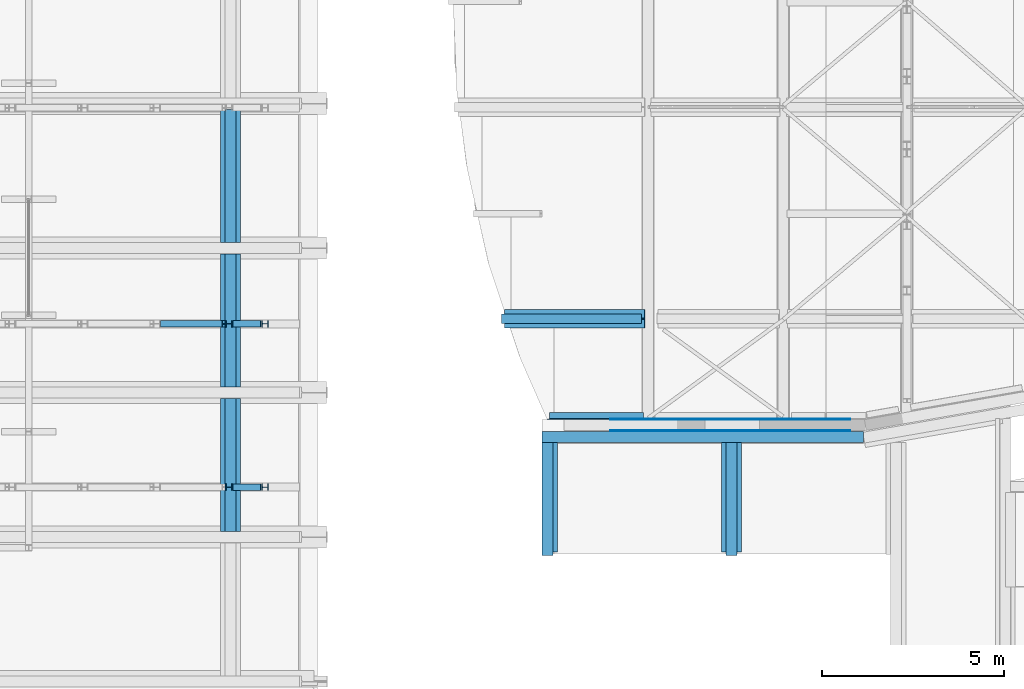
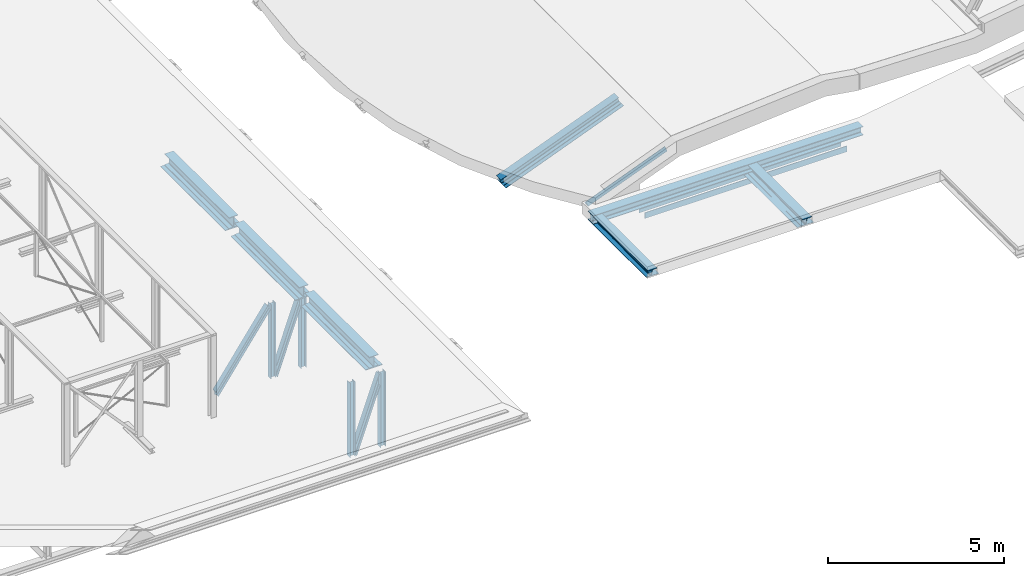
# One storey, part 14 of 50: 17 beams.
"""IFC2X3 building model written with IfcOpenShell, lengths in millimetres."""

from ifc_helpers import new_model, entity, si_unit, converted_unit, derived_unit, direction, frame, frame_2d, origin, place, context, subcontext, project, spatial, polyline, circle_curve, parameter, trimmed, segment, composite_curve, rectangle, i_section, outline, extrude, clip, halfspace, source, transform, mapped, material, material_list, type_object, type_shapes, element, save


model = new_model("IFC2X3")

# Units and contexts
model_context = context("Model", 3, precision=0.01, world=origin(), true_north=direction((6.12303176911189e-17, 1.0)))
body_context = subcontext(model_context, "Body", "Model", "MODEL_VIEW")
ifc_project = project(units=[si_unit("LENGTHUNIT", "METRE", prefix="MILLI"), si_unit("AREAUNIT", "SQUARE_METRE", prefix="MILLI"), si_unit("VOLUMEUNIT", "CUBIC_METRE"), converted_unit("PLANEANGLEUNIT", "DEGREE", entity("IfcRatioMeasure", 0.0174532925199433), si_unit("PLANEANGLEUNIT", "RADIAN"), dimensions=[0, 0, 0, 0, 0, 0, 0]), si_unit("MASSUNIT", "GRAM", prefix="KILO"), derived_unit("MASSDENSITYUNIT", [(si_unit("MASSUNIT", "GRAM", prefix="KILO"), 1), (si_unit("LENGTHUNIT", "METRE"), -3)]), derived_unit("MOMENTOFINERTIAUNIT", [(si_unit("LENGTHUNIT", "METRE"), 4)]), si_unit("TIMEUNIT", "SECOND"), si_unit("FREQUENCYUNIT", "HERTZ"), si_unit("THERMODYNAMICTEMPERATUREUNIT", "DEGREE_CELSIUS"), derived_unit("THERMALTRANSMITTANCEUNIT", [(si_unit("MASSUNIT", "GRAM", prefix="KILO"), 1), (si_unit("THERMODYNAMICTEMPERATUREUNIT", "KELVIN"), -1), (si_unit("TIMEUNIT", "SECOND"), -3)]), derived_unit("VOLUMETRICFLOWRATEUNIT", [(si_unit("LENGTHUNIT", "METRE"), 3), (si_unit("TIMEUNIT", "SECOND"), -1)]), si_unit("ELECTRICCURRENTUNIT", "AMPERE"), si_unit("ELECTRICVOLTAGEUNIT", "VOLT"), si_unit("POWERUNIT", "WATT"), si_unit("FORCEUNIT", "NEWTON", prefix="KILO"), si_unit("ILLUMINANCEUNIT", "LUX"), si_unit("LUMINOUSFLUXUNIT", "LUMEN"), si_unit("LUMINOUSINTENSITYUNIT", "CANDELA"), derived_unit("USERDEFINED", [(si_unit("MASSUNIT", "GRAM", prefix="KILO"), -1), (si_unit("LENGTHUNIT", "METRE"), -2), (si_unit("TIMEUNIT", "SECOND"), 3), (si_unit("LUMINOUSFLUXUNIT", "LUMEN"), 1)]), derived_unit("LINEARVELOCITYUNIT", [(si_unit("LENGTHUNIT", "METRE"), 1), (si_unit("TIMEUNIT", "SECOND"), -1)]), si_unit("PRESSUREUNIT", "PASCAL"), derived_unit("USERDEFINED", [(si_unit("LENGTHUNIT", "METRE"), -2), (si_unit("MASSUNIT", "GRAM", prefix="KILO"), 1), (si_unit("TIMEUNIT", "SECOND"), -2)]), derived_unit("LINEARFORCEUNIT", [(si_unit("MASSUNIT", "GRAM", prefix="KILO"), 1), (si_unit("LENGTHUNIT", "METRE"), 1), (si_unit("TIMEUNIT", "SECOND"), -2), (si_unit("LENGTHUNIT", "METRE"), -1)]), derived_unit("PLANARFORCEUNIT", [(si_unit("MASSUNIT", "GRAM", prefix="KILO"), 1), (si_unit("LENGTHUNIT", "METRE"), 1), (si_unit("TIMEUNIT", "SECOND"), -2), (si_unit("LENGTHUNIT", "METRE"), -2)])], contexts=[model_context])

# Site, building, storey
site_placement = place(None, origin())
site = spatial("IfcSite", under=ifc_project, at=site_placement, Name="Theater aan de Parade", CompositionType="ELEMENT")
building_placement = place(site_placement, origin())
building = spatial("IfcBuilding", under=site, at=building_placement, Name="Theater aan de Parade", CompositionType="ELEMENT")
storey_placement = place(building_placement, frame((0.0, 0.0, 15820.0)))
storey = spatial("IfcBuildingStorey", under=building, at=storey_placement, Name="04 vierde verdieping", CompositionType="ELEMENT", Elevation=15820.0)

# Beams
ifc_material_1 = material(Name="00_PBT_MAT_staal_S355")
beam_type_1 = type_object("IfcBeamType", Name="28_PBT_SF_staal_H-profiel:S355_HE180A", PredefinedType="NOTDEFINED")
beam_1_placement = place(storey_placement, frame((34071.8569884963, 23568.2922984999, -4340.0), z_axis=(1.0, 0.0, 0.0), x_axis=(0.0, 0.0, 1.0)))
element("IfcBeam", 1, at=beam_1_placement, inside=storey, type_object=beam_type_1, material=ifc_material_1, Name="28_PBT_SF_staal_H-profiel:S355_HE180A", ObjectType="28_PBT_SF_staal_H-profiel:S355_HE180A", context=body_context, shape_type="SweptSolid", body=[
    extrude(i_section(OverallWidth=179.999999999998, OverallDepth=171.0, WebThickness=6.00000000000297, FlangeThickness=9.49999999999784, FilletRadius=15.0000000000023, at=frame_2d((-6.49436060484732e-12, 2.16715534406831e-12), x_axis=(0.0, 1.0))), frame((122.7, 0.0, 0.0), z_axis=(1.0, 0.0, 0.0), x_axis=(0.0, 0.0, -1.0)), (0.0, 0.0, 1.0), 2574.60000000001),
])
beam_2_placement = place(storey_placement, frame((35067.8569884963, 23568.2922984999, -4340.0), z_axis=(1.0, 0.0, 0.0), x_axis=(0.0, 0.0, 1.0)))
element("IfcBeam", 2, at=beam_2_placement, inside=storey, type_object=beam_type_1, material=ifc_material_1, Name="28_PBT_SF_staal_H-profiel:S355_HE180A", ObjectType="28_PBT_SF_staal_H-profiel:S355_HE180A", context=body_context, shape_type="SweptSolid", body=[
    extrude(i_section(OverallWidth=179.999999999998, OverallDepth=171.0, WebThickness=6.00000000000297, FlangeThickness=9.49999999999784, FilletRadius=15.0000000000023, at=frame_2d((-2.16715534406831e-12, -2.16715534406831e-12), x_axis=(0.0, 1.0))), frame((122.7, 0.0, 0.0), z_axis=(1.0, 0.0, 0.0), x_axis=(0.0, 0.0, -1.0)), (0.0, 0.0, 1.0), 2574.60000000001),
])
beam_3_placement = place(storey_placement, frame((32079.8569884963, 23568.2922984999, -4340.0), z_axis=(0.816775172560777, 0.0, -0.576956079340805), x_axis=(0.576956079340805, 0.0, 0.816775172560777)))
element("IfcBeam", 3, at=beam_3_placement, inside=storey, type_object=beam_type_1, material=ifc_material_1, Name="28_PBT_SF_staal_H-profiel:S355_HE180A", ObjectType="28_PBT_SF_staal_H-profiel:S355_HE180A", context=body_context, shape_type="Clipping", body=[
    clip(clip(extrude(outline(composite_curve([segment(polyline([(76.0, -90.0), (85.5000000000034, -90.0)]), True, "CONTINUOUS"), segment(polyline([(85.499999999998, -90.0), (85.4999999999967, 90.0)]), True, "CONTINUOUS"), segment(polyline([(85.4999999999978, 90.0), (76.0, 90.0)]), True, "CONTINUOUS"), segment(polyline([(76.0, 90.0), (76.0, 18.0)]), True, "CONTINUOUS"), segment(trimmed(circle_curve(frame_2d((61.0, 18.0), x_axis=(1.0, 0.0)), 14.9999999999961), [parameter(269.999999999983)], [parameter(0.0)], True, "PARAMETER"), False, "CONTINUOUS"), segment(polyline([(61.0, 3.0), (-61.0, 3.0)]), True, "CONTINUOUS"), segment(trimmed(circle_curve(frame_2d((-61.0, 18.0), x_axis=(0.0, -1.0)), 14.9999999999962), [parameter(269.999999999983)], [parameter(0.0)], True, "PARAMETER"), False, "CONTINUOUS"), segment(polyline([(-76.0, 18.0), (-76.0, 90.0)]), True, "CONTINUOUS"), segment(polyline([(-76.0, 90.0), (-85.4999999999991, 90.0)]), True, "CONTINUOUS"), segment(polyline([(-85.4999999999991, 90.0), (-85.4999999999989, -90.0)]), True, "CONTINUOUS"), segment(polyline([(-85.4999999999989, -90.0), (-76.0, -90.0)]), True, "CONTINUOUS"), segment(polyline([(-76.0, -90.0), (-76.0, -18.0)]), True, "CONTINUOUS"), segment(trimmed(circle_curve(frame_2d((-61.0, -18.0), x_axis=(-1.0, 0.0)), 14.9999999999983), [parameter(269.999999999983)], [parameter(0.0)], True, "PARAMETER"), False, "CONTINUOUS"), segment(polyline([(-61.0, -3.0), (61.0, -3.0)]), True, "CONTINUOUS"), segment(trimmed(circle_curve(frame_2d((61.0, -18.0), x_axis=(0.0, 1.0)), 14.9999999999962), [parameter(269.999999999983)], [parameter(0.0)], True, "PARAMETER"), False, "CONTINUOUS"), segment(polyline([(76.0, -18.0), (76.0, -90.0)]), True, "CONTINUOUS")], self_intersect=False)), frame((207.771728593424, 0.0, 0.0), z_axis=(1.0, 0.0, 0.0), x_axis=(0.0, 0.0, -1.0)), (0.0, 0.0, 1.0), 3037.0590394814), halfspace(frame((144.75167659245, -110.0, 26.9163913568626), z_axis=(-0.576956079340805, 0.0, -0.816775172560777), x_axis=(0.816775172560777, 0.0, -0.576956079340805)), False)), halfspace(frame((1172.31045389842, 110.0, 1481.5929736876), z_axis=(0.576956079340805, 0.0, 0.816775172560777), x_axis=(0.816775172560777, 0.0, -0.576956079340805)), False)),
])
beam_4_placement = place(storey_placement, frame((34071.8569884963, 23568.2922984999, -4340.0), z_axis=(0.942916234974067, 0.0, -0.333029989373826), x_axis=(0.333029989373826, 0.0, 0.942916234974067)))
element("IfcBeam", 4, at=beam_4_placement, inside=storey, type_object=beam_type_1, material=ifc_material_1, Name="28_PBT_SF_staal_H-profiel:S355_HE180A", ObjectType="28_PBT_SF_staal_H-profiel:S355_HE180A", context=body_context, shape_type="Clipping", body=[
    clip(clip(extrude(outline(composite_curve([segment(polyline([(76.0, -90.0), (85.500000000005, -90.0)]), True, "CONTINUOUS"), segment(polyline([(85.5000000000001, -90.0), (85.5000000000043, 90.0)]), True, "CONTINUOUS"), segment(polyline([(85.5, 90.0), (76.0, 90.0)]), True, "CONTINUOUS"), segment(polyline([(76.0, 90.0), (76.0, 18.0)]), True, "CONTINUOUS"), segment(trimmed(circle_curve(frame_2d((61.0, 18.0), x_axis=(1.0, 0.0)), 14.9999999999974), [parameter(269.999999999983)], [parameter(0.0)], True, "PARAMETER"), False, "CONTINUOUS"), segment(polyline([(61.0, 3.0), (-61.0, 3.0)]), True, "CONTINUOUS"), segment(trimmed(circle_curve(frame_2d((-61.0, 18.0), x_axis=(0.0, -1.0)), 15.0000000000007), [parameter(270.000000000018)], [parameter(0.0)], True, "PARAMETER"), False, "CONTINUOUS"), segment(polyline([(-76.0, 18.0), (-76.0, 90.0)]), True, "CONTINUOUS"), segment(polyline([(-76.0, 90.0), (-85.5000000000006, 90.0)]), True, "CONTINUOUS"), segment(polyline([(-85.5000000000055, 90.0), (-85.5000000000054, -90.0)]), True, "CONTINUOUS"), segment(polyline([(-85.5000000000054, -90.0), (-76.0, -90.0)]), True, "CONTINUOUS"), segment(polyline([(-76.0, -90.0), (-76.0, -18.0)]), True, "CONTINUOUS"), segment(trimmed(circle_curve(frame_2d((-61.0, -18.0), x_axis=(-1.0, 0.0)), 15.0000000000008), [parameter(270.000000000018)], [parameter(0.0)], True, "PARAMETER"), False, "CONTINUOUS"), segment(polyline([(-61.0, -3.0), (61.0, -3.0)]), True, "CONTINUOUS"), segment(trimmed(circle_curve(frame_2d((61.0, -18.0), x_axis=(0.0, 1.0)), 14.9999999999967), [parameter(269.999999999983)], [parameter(0.0)], True, "PARAMETER"), False, "CONTINUOUS"), segment(polyline([(76.0, -18.0), (76.0, -90.0)]), True, "CONTINUOUS")], self_intersect=False)), frame((159.557227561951, 0.0, 0.0), z_axis=(1.0, 0.0, 0.0), x_axis=(0.0, 0.0, -1.0)), (0.0, 0.0, 1.0), 2671.60719691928), halfspace(frame((131.972161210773, -110.0, 65.2754828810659), z_axis=(-0.333029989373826, 0.0, -0.942916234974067), x_axis=(0.942916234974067, 0.0, -0.333029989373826)), False)), halfspace(frame((393.40070286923, 110.0, 805.464727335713), z_axis=(0.333029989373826, 0.0, 0.942916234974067), x_axis=(0.942916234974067, 0.0, -0.333029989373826)), False)),
])
beam_5_placement = place(storey_placement, frame((34071.8569884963, 19068.2922984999, -4340.0), z_axis=(1.0, 0.0, 0.0), x_axis=(0.0, 0.0, 1.0)))
element("IfcBeam", 5, at=beam_5_placement, inside=storey, type_object=beam_type_1, material=ifc_material_1, Name="28_PBT_SF_staal_H-profiel:S355_HE180A", ObjectType="28_PBT_SF_staal_H-profiel:S355_HE180A", context=body_context, shape_type="SweptSolid", body=[
    extrude(i_section(OverallWidth=180.0, OverallDepth=171.0, WebThickness=5.99999999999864, FlangeThickness=9.49999999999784, FilletRadius=15.0000000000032, at=frame_2d((-2.16715534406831e-12, -3.25428572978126e-12), x_axis=(0.0, 1.0))), frame((122.7, 0.0, 0.0), z_axis=(1.0, 0.0, 0.0), x_axis=(0.0, 0.0, -1.0)), (0.0, 0.0, 1.0), 2574.60000000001),
])
beam_6_placement = place(storey_placement, frame((35067.8569884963, 19068.2922984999, -4340.0), z_axis=(1.0, 0.0, 0.0), x_axis=(0.0, 0.0, 1.0)))
element("IfcBeam", 6, at=beam_6_placement, inside=storey, type_object=beam_type_1, material=ifc_material_1, Name="28_PBT_SF_staal_H-profiel:S355_HE180A", ObjectType="28_PBT_SF_staal_H-profiel:S355_HE180A", context=body_context, shape_type="SweptSolid", body=[
    extrude(i_section(OverallWidth=180.0, OverallDepth=171.0, WebThickness=5.99999999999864, FlangeThickness=9.49999999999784, FilletRadius=15.0000000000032, at=frame_2d((-2.16715534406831e-12, 1.08002495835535e-12), x_axis=(0.0, 1.0))), frame((122.7, 0.0, 0.0), z_axis=(1.0, 0.0, 0.0), x_axis=(0.0, 0.0, -1.0)), (0.0, 0.0, 1.0), 2574.60000000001),
])
beam_7_placement = place(storey_placement, frame((34071.8569884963, 19068.2922984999, -4340.0), z_axis=(0.942916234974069, 0.0, -0.333029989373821), x_axis=(0.333029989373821, 0.0, 0.942916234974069)))
element("IfcBeam", 7, at=beam_7_placement, inside=storey, type_object=beam_type_1, material=ifc_material_1, Name="28_PBT_SF_staal_H-profiel:S355_HE180A", ObjectType="28_PBT_SF_staal_H-profiel:S355_HE180A", context=body_context, shape_type="Clipping", body=[
    clip(clip(extrude(outline(composite_curve([segment(polyline([(76.0, -90.0), (85.4999999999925, -90.0)]), True, "CONTINUOUS"), segment(polyline([(85.4999999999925, -90.0), (85.4999999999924, 90.0)]), True, "CONTINUOUS"), segment(polyline([(85.4999999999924, 90.0), (76.0, 90.0)]), True, "CONTINUOUS"), segment(polyline([(76.0, 90.0), (76.0, 18.0)]), True, "CONTINUOUS"), segment(trimmed(circle_curve(frame_2d((61.0, 18.0), x_axis=(1.0, 0.0)), 14.9999999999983), [parameter(269.999999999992)], [parameter(0.0)], True, "PARAMETER"), False, "CONTINUOUS"), segment(polyline([(61.0, 3.0), (-61.0, 3.0)]), True, "CONTINUOUS"), segment(trimmed(circle_curve(frame_2d((-61.0, 18.0), x_axis=(0.0, -1.0)), 15.0000000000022), [parameter(270.000000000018)], [parameter(0.0)], True, "PARAMETER"), False, "CONTINUOUS"), segment(polyline([(-76.0, 18.0), (-76.0, 90.0)]), True, "CONTINUOUS"), segment(polyline([(-76.0, 90.0), (-85.500000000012, 90.0)]), True, "CONTINUOUS"), segment(polyline([(-85.500000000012, 90.0), (-85.5000000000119, -90.0)]), True, "CONTINUOUS"), segment(polyline([(-85.5000000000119, -90.0), (-76.0, -90.0)]), True, "CONTINUOUS"), segment(polyline([(-76.0, -90.0), (-76.0, -18.0)]), True, "CONTINUOUS"), segment(trimmed(circle_curve(frame_2d((-61.0, -18.0), x_axis=(-1.0, 0.0)), 14.9999999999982), [parameter(269.999999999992)], [parameter(0.0)], True, "PARAMETER"), False, "CONTINUOUS"), segment(polyline([(-61.0, -3.0), (61.0, -3.0)]), True, "CONTINUOUS"), segment(trimmed(circle_curve(frame_2d((61.0, -18.0), x_axis=(0.0, 1.0)), 14.9999999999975), [parameter(269.999999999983)], [parameter(0.0)], True, "PARAMETER"), False, "CONTINUOUS"), segment(polyline([(76.0, -18.0), (76.0, -90.0)]), True, "CONTINUOUS")], self_intersect=False)), frame((159.557227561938, 0.0, 0.0), z_axis=(1.0, 0.0, 0.0), x_axis=(0.0, 0.0, -1.0)), (0.0, 0.0, 1.0), 2671.60719691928), halfspace(frame((131.972161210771, -110.0, 65.2754828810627), z_axis=(-0.333029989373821, 0.0, -0.942916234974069), x_axis=(0.942916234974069, 0.0, -0.333029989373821)), False)), halfspace(frame((393.400702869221, 110.0, 805.464727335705), z_axis=(0.333029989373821, 0.0, 0.942916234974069), x_axis=(0.942916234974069, 0.0, -0.333029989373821)), False)),
])
beam_type_2 = type_object("IfcBeamType", Name="28_PBT_SF_staal_H-profiel (void):S355_HE300B", PredefinedType="NOTDEFINED")
beam_8_placement = place(storey_placement, frame((42694.9091634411, 20445.0, 0.0)))
element("IfcBeam", 8, at=beam_8_placement, inside=storey, type_object=beam_type_2, material=ifc_material_1, Name="28_PBT_SF_staal_H-profiel (void):S355_HE300B", ObjectType="28_PBT_SF_staal_H-profiel (void):S355_HE300B", context=body_context, shape_type="SweptSolid", body=[
    extrude(outline(composite_curve([segment(polyline([(131.0, -150.0), (150.0, -150.0)]), True, "CONTINUOUS"), segment(polyline([(150.0, -150.0), (150.0, 150.0)]), True, "CONTINUOUS"), segment(polyline([(150.0, 150.0), (131.0, 150.0)]), True, "CONTINUOUS"), segment(polyline([(131.0, 150.0), (131.0, 32.5000000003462)]), True, "CONTINUOUS"), segment(trimmed(circle_curve(frame_2d((104.0, 32.5000000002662), x_axis=(1.0, 0.0)), 26.9999999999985), [parameter(269.999999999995)], [parameter(0.0)], True, "PARAMETER"), False, "CONTINUOUS"), segment(polyline([(104.0, 5.50000000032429), (-104.0, 5.49999999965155)]), True, "CONTINUOUS"), segment(trimmed(circle_curve(frame_2d((-104.0, 32.4999999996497), x_axis=(0.0, -1.0)), 26.9999999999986), [parameter(269.999999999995)], [parameter(0.0)], True, "PARAMETER"), False, "CONTINUOUS"), segment(polyline([(-131.0, 32.4999999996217), (-131.0, 150.0)]), True, "CONTINUOUS"), segment(polyline([(-131.0, 150.0), (-150.0, 150.0)]), True, "CONTINUOUS"), segment(polyline([(-150.0, 150.0), (-150.0, -150.0)]), True, "CONTINUOUS"), segment(polyline([(-150.0, -150.0), (-131.0, -150.0)]), True, "CONTINUOUS"), segment(polyline([(-131.0, -150.0), (-131.0, -32.5000000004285)]), True, "CONTINUOUS"), segment(trimmed(circle_curve(frame_2d((-104.0, -32.5000000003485), x_axis=(-1.0, 0.0)), 26.9999999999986), [parameter(269.999999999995)], [parameter(0.0)], True, "PARAMETER"), False, "CONTINUOUS"), segment(polyline([(-104.0, -5.50000000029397), (104.0, -5.49999999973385)]), True, "CONTINUOUS"), segment(trimmed(circle_curve(frame_2d((104.0, -32.499999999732), x_axis=(0.0, 1.0)), 26.9999999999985), [parameter(269.999999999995)], [parameter(0.0)], True, "PARAMETER"), False, "CONTINUOUS"), segment(polyline([(131.0, -32.4999999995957), (131.0, -150.0)]), True, "CONTINUOUS")], self_intersect=False)), frame((0.0, 0.0, 165.0), z_axis=(1.0, 0.0, 0.0), x_axis=(0.0, 0.0, -1.0)), (0.0, 0.0, 1.0), 8849.55984125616),
])
beam_type_3 = type_object("IfcBeamType", Name="28_PBT_SF_staal_L-profiel:S355_L200x200x20", PredefinedType="NOTDEFINED")
beam_9_placement = place(storey_placement, frame((42755.6868183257, 20986.8, 556.696274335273), z_axis=(-0.363251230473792, 0.0, 0.931691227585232), x_axis=(0.931691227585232, 0.0, 0.363251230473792)))
element("IfcBeam", 9, at=beam_9_placement, inside=storey, type_object=beam_type_3, material=ifc_material_1, Name="28_PBT_SF_staal_L-profiel:S355_L200x200x20", ObjectType="28_PBT_SF_staal_L-profiel:S355_L200x200x20", context=body_context, shape_type="SweptSolid", body=[
    extrude(outline(composite_curve([segment(polyline([(-124.444444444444, -75.5555555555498), (75.5555555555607, -75.55555555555)]), True, "CONTINUOUS"), segment(polyline([(75.5555555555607, -75.55555555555), (75.5555555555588, 124.444444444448)]), True, "CONTINUOUS"), segment(polyline([(75.5555555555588, 124.444444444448), (64.5555555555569, 124.444444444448)]), True, "CONTINUOUS"), segment(trimmed(circle_curve(frame_2d((64.5555555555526, 115.444444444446), x_axis=(0.0, 1.0)), 8.99999999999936), [parameter(0.0)], [parameter(90.0000000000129)], True, "PARAMETER"), True, "CONTINUOUS"), segment(polyline([(55.5555555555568, 115.444444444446), (55.5555555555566, -37.5555555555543)]), True, "CONTINUOUS"), segment(trimmed(circle_curve(frame_2d((37.5555555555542, -37.55555555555), x_axis=(1.0, 0.0)), 18.0000000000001), [parameter(270.0)], [parameter(0.0)], True, "PARAMETER"), False, "CONTINUOUS"), segment(polyline([(37.5555555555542, -55.5555555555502), (-115.444444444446, -55.55555555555)]), True, "CONTINUOUS"), segment(trimmed(circle_curve(frame_2d((-115.44444444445, -64.5555555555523), x_axis=(0.0, 1.0)), 8.99999999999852), [parameter(0.0)], [parameter(90.0000000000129)], True, "PARAMETER"), True, "CONTINUOUS"), segment(polyline([(-124.444444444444, -64.5555555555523), (-124.444444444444, -75.5555555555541)]), True, "CONTINUOUS")], self_intersect=False)), frame((0.0, 18.7555555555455, -319.444444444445), z_axis=(1.0, 0.0, 0.0), x_axis=(0.0, 0.0, -1.0)), (0.0, 0.0, 1.0), 2780.00000000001),
])
ifc_material_2 = material(Name="00_PBT_MAT_Lucht")
ifc_material_list_1 = material_list([ifc_material_2, ifc_material_1])
beam_type_4 = type_object("IfcBeamType", Name="28_PBT_SF_staal_H-profiel_met_ondergelaste_strip (void):S355_HE300A + ondergelaste strip d=12", PredefinedType="BEAM", material=ifc_material_list_1)
shared_shape_1 = source(origin(), body_context, "Body", "Clipping", [
    clip(extrude(i_section(OverallWidth=300.000000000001, OverallDepth=290.000000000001, WebThickness=8.49999999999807, FlangeThickness=14.0000000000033, FilletRadius=27.0000000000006, at=frame_2d((0.0, 2.1600499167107e-12), x_axis=(1.0, 0.0))), frame((42844.9091634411, 20295.0, 15975.0), z_axis=(0.0, -1.0, 0.0), x_axis=(-1.0, 0.0, 0.0)), (0.0, 0.0, 1.0), 3114.58265202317), halfspace(frame((47107.4091634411, 17412.0594660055, 15439.2853533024), z_axis=(0.0, -0.946688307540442, -0.322150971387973), x_axis=(-1.0, 0.0, 0.0)), False)),
    clip(extrude(rectangle(XDim=10.0000000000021, YDim=420.0, at=frame_2d((-4.33431068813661e-12, -1.0831335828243e-12), x_axis=(0.0, 1.0))), frame((42909.909163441, 20294.0, 15825.0), z_axis=(0.0, -1.0, 0.0), x_axis=(-1.0, 0.0, 0.0)), (0.0, 0.0, 1.0), 3014.89781461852), halfspace(frame((47107.4091634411, 17412.0594660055, 15439.2853533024), z_axis=(0.0, -0.946688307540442, -0.322150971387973), x_axis=(-1.0, 0.0, 0.0)), False)),
])
type_shapes(beam_type_4, [shared_shape_1])
beam_10_placement = place(storey_placement, frame((0.0, 0.0, -15820.0)))
element("IfcBeam", 10, at=beam_10_placement, inside=storey, type_object=beam_type_4, material=ifc_material_1, Name="28_PBT_SF_staal_H-profiel_met_ondergelaste_strip (void):S355_HE300A + ondergelaste strip d=12", ObjectType="28_PBT_SF_staal_H-profiel_met_ondergelaste_strip (void):S355_HE300A + ondergelaste strip d=12", context=body_context, shape_type="MappedRepresentation", body=[
    mapped(shared_shape_1, transform((0.0, 0.0, 0.0), scale=1.0)),
])
ifc_material_list_2 = material_list([ifc_material_1, ifc_material_2])
beam_type_5 = type_object("IfcBeamType", Name="28_PBT_SF_staal_H-profiel_met_onderplaat (void):S355_HE260A + onderplaat d=12", PredefinedType="BEAM", material=ifc_material_list_2)
shared_shape_2 = source(origin(), body_context, "Body", "SweptSolid", [
    extrude(rectangle(XDim=12.0, YDim=510.0, at=frame_2d((-2.54019028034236e-13, -1.4210854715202e-14), x_axis=(1.0, 0.0))), frame((-2070.0, 0.0, -131.0), z_axis=(1.0, 0.0, 0.0), x_axis=(0.0, 0.0, -1.0)), (0.0, 0.0, 1.0), 4139.99999999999),
    extrude(i_section(OverallWidth=260.0, OverallDepth=250.0, WebThickness=7.49999999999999, FlangeThickness=12.4999999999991, FilletRadius=24.0, at=frame_2d((-3.83693077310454e-13, 0.0), x_axis=(0.0, 1.0))), frame((-2070.0, 0.0, 0.0), z_axis=(1.0, 0.0, 0.0), x_axis=(0.0, 0.0, -1.0)), (0.0, 0.0, 1.0), 4139.99999999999),
])
type_shapes(beam_type_5, [shared_shape_2])
beam_11_placement = place(storey_placement, frame((43545.268046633, 23708.9366326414, 596.211890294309), z_axis=(-0.363251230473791, 0.0, 0.931691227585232), x_axis=(0.931691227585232, 0.0, 0.363251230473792)))
element("IfcBeam", 11, at=beam_11_placement, inside=storey, type_object=beam_type_5, material=ifc_material_1, Name="28_PBT_SF_staal_H-profiel_met_onderplaat (void):S355_HE260A + onderplaat d=12", ObjectType="28_PBT_SF_staal_H-profiel_met_onderplaat (void):S355_HE260A + onderplaat d=12", context=body_context, shape_type="MappedRepresentation", body=[
    mapped(shared_shape_2, transform((0.0, 0.0, 0.0), scale=1.0)),
])
ifc_material_list_3 = material_list([ifc_material_1, ifc_material_2])
beam_type_6 = type_object("IfcBeamType", Name="28_PBT_SF_staal_H-profiel_met_onderplaat (void):S355_HE400A + onderplaat d=20", PredefinedType="BEAM", material=ifc_material_list_3)
shared_shape_3 = source(origin(), body_context, "Body", "SweptSolid", [
    extrude(rectangle(XDim=20.0, YDim=550.0, at=frame_2d((3.37507799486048e-14, 0.0), x_axis=(1.0, 0.0))), frame((-1832.24999999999, 0.0, -205.0), z_axis=(1.0, 0.0, 0.0), x_axis=(0.0, 0.0, -1.0)), (0.0, 0.0, 1.0), 3664.50000000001),
    extrude(outline(composite_curve([segment(polyline([(176.0, -150.0), (195.0, -150.0)]), True, "CONTINUOUS"), segment(polyline([(195.0, -150.0), (195.0, 150.0)]), True, "CONTINUOUS"), segment(polyline([(195.0, 150.0), (176.0, 150.0)]), True, "CONTINUOUS"), segment(polyline([(176.0, 150.0), (176.0, 32.5)]), True, "CONTINUOUS"), segment(trimmed(circle_curve(frame_2d((149.0, 32.4999999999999), x_axis=(1.0, 0.0)), 26.9999999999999), [parameter(270.0)], [parameter(0.0)], True, "PARAMETER"), False, "CONTINUOUS"), segment(polyline([(149.0, 5.49999999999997), (-149.0, 5.49999999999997)]), True, "CONTINUOUS"), segment(trimmed(circle_curve(frame_2d((-149.0, 32.5), x_axis=(0.0, -1.0)), 27.0), [parameter(270.0)], [parameter(0.0)], True, "PARAMETER"), False, "CONTINUOUS"), segment(polyline([(-176.0, 32.5), (-176.0, 150.0)]), True, "CONTINUOUS"), segment(polyline([(-176.0, 150.0), (-195.0, 150.0)]), True, "CONTINUOUS"), segment(polyline([(-195.0, 150.0), (-195.0, -150.0)]), True, "CONTINUOUS"), segment(polyline([(-195.0, -150.0), (-176.0, -150.0)]), True, "CONTINUOUS"), segment(polyline([(-176.0, -150.0), (-176.0, -32.5)]), True, "CONTINUOUS"), segment(trimmed(circle_curve(frame_2d((-149.0, -32.5), x_axis=(-1.0, 0.0)), 26.9999999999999), [parameter(269.999999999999)], [parameter(0.0)], True, "PARAMETER"), False, "CONTINUOUS"), segment(polyline([(-149.0, -5.50000000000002), (149.0, -5.50000000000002)]), True, "CONTINUOUS"), segment(trimmed(circle_curve(frame_2d((149.0, -32.4999999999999), x_axis=(0.0, 1.0)), 26.9999999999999), [parameter(270.0)], [parameter(0.0)], True, "PARAMETER"), False, "CONTINUOUS"), segment(polyline([(176.0, -32.5), (176.0, -150.0)]), True, "CONTINUOUS")], self_intersect=False)), frame((-1832.24999999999, 0.0, 0.0), z_axis=(1.0, 0.0, 0.0), x_axis=(0.0, 0.0, -1.0)), (0.0, 0.0, 1.0), 3664.50000000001),
])
type_shapes(beam_type_6, [shared_shape_3])
beam_12_placement = place(storey_placement, frame((34109.3570025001, 19684.2274014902, -235.0), z_axis=(0.0, 0.0, 1.0), x_axis=(0.0, 1.0, 0.0)))
element("IfcBeam", 12, at=beam_12_placement, inside=storey, type_object=beam_type_6, material=ifc_material_1, Name="28_PBT_SF_staal_H-profiel_met_onderplaat (void):S355_HE400A + onderplaat d=20", ObjectType="28_PBT_SF_staal_H-profiel_met_onderplaat (void):S355_HE400A + onderplaat d=20", context=body_context, shape_type="MappedRepresentation", body=[
    mapped(shared_shape_3, transform((0.0, 0.0, 0.0), scale=1.0)),
])
ifc_material_list_4 = material_list([ifc_material_2, ifc_material_1])
beam_type_7 = type_object("IfcBeamType", Name="28_PBT_SF_staal_H-profiel_met_onderplaat (void):S355_HE400A + onderplaat d=20", PredefinedType="BEAM", material=ifc_material_list_4)
shared_shape_4 = source(origin(), body_context, "Body", "SweptSolid", [
    extrude(i_section(OverallWidth=300.000000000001, OverallDepth=390.0, WebThickness=11.0000000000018, FlangeThickness=19.0, FilletRadius=26.9999999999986, at=frame_2d((6.49436060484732e-12, -1.08002495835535e-12), x_axis=(1.0, 0.0))), frame((34109.3570025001, 25811.9774014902, 15585.0), z_axis=(0.0, 1.0, 0.0), x_axis=(-1.0, 0.0, 0.0)), (0.0, 0.0, 1.0), 3664.50000000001),
    extrude(rectangle(XDim=19.9999999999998, YDim=550.000000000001, at=frame_2d((-2.18847162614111e-12, -1.08268949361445e-12), x_axis=(0.0, 1.0))), frame((34109.3570025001, 25811.9774014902, 15380.0), z_axis=(0.0, 1.0, 0.0), x_axis=(-1.0, 0.0, 0.0)), (0.0, 0.0, 1.0), 3664.50000000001),
])
type_shapes(beam_type_7, [shared_shape_4])
beam_13_placement = place(storey_placement, frame((0.0, 0.0, -15820.0)))
element("IfcBeam", 13, at=beam_13_placement, inside=storey, type_object=beam_type_7, material=ifc_material_1, Name="28_PBT_SF_staal_H-profiel_met_onderplaat (void):S355_HE400A + onderplaat d=20", ObjectType="28_PBT_SF_staal_H-profiel_met_onderplaat (void):S355_HE400A + onderplaat d=20", context=body_context, shape_type="MappedRepresentation", body=[
    mapped(shared_shape_4, transform((0.0, 0.0, 0.0), scale=1.0)),
])
ifc_material_list_5 = material_list([ifc_material_2, ifc_material_1])
beam_type_8 = type_object("IfcBeamType", Name="28_PBT_SF_staal_H-profiel_met_onderplaat (void):S355_HE400A + onderplaat d=20", PredefinedType="BEAM", material=ifc_material_list_5)
shared_shape_5 = source(origin(), body_context, "Body", "SweptSolid", [
    extrude(i_section(OverallWidth=300.000000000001, OverallDepth=390.0, WebThickness=11.0000000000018, FlangeThickness=19.0, FilletRadius=26.9999999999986, at=frame_2d((6.49436060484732e-12, -1.08002495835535e-12), x_axis=(1.0, 0.0))), frame((34109.3570025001, 21831.9774014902, 15585.0), z_axis=(0.0, 1.0, 0.0), x_axis=(-1.0, 0.0, 0.0)), (0.0, 0.0, 1.0), 3664.50000000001),
    extrude(rectangle(XDim=19.9999999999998, YDim=550.000000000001, at=frame_2d((2.18847162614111e-12, -1.08268949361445e-12), x_axis=(0.0, 1.0))), frame((34109.3570025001, 21831.9774014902, 15380.0), z_axis=(0.0, 1.0, 0.0), x_axis=(-1.0, 0.0, 0.0)), (0.0, 0.0, 1.0), 3664.50000000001),
])
type_shapes(beam_type_8, [shared_shape_5])
beam_14_placement = place(storey_placement, frame((0.0, 0.0, -15820.0)))
element("IfcBeam", 14, at=beam_14_placement, inside=storey, type_object=beam_type_8, material=ifc_material_1, Name="28_PBT_SF_staal_H-profiel_met_onderplaat (void):S355_HE400A + onderplaat d=20", ObjectType="28_PBT_SF_staal_H-profiel_met_onderplaat (void):S355_HE400A + onderplaat d=20", context=body_context, shape_type="MappedRepresentation", body=[
    mapped(shared_shape_5, transform((0.0, 0.0, 0.0), scale=1.0)),
])
ifc_material_list_6 = material_list([ifc_material_1, ifc_material_2])
beam_type_9 = type_object("IfcBeamType", Name="28_PBT_SF_staal_H-profiel_met_onderplaat (void):S355_HE300A + onderplaat d=12", PredefinedType="BEAM", material=ifc_material_list_6)
shared_shape_6 = source(origin(), body_context, "Body", "Clipping", [
    clip(extrude(i_section(OverallWidth=300.000000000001, OverallDepth=290.000000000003, WebThickness=8.49999999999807, FlangeThickness=14.0000000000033, FilletRadius=27.0000000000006, at=frame_2d((-8.65441052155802e-12, 2.1600499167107e-12), x_axis=(1.0, 0.0))), frame((47911.2389750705, 20295.0, 15975.0), z_axis=(0.0, -1.0, 0.0), x_axis=(-1.0, 0.0, 0.0)), (0.0, 0.0, 1.0), 3114.58265202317), halfspace(frame((52131.2389750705, 17360.1629639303, 15591.7909052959), z_axis=(0.0, -0.946688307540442, -0.322150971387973), x_axis=(-1.0, 0.0, 0.0)), False)),
    clip(extrude(rectangle(XDim=12.0000000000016, YDim=549.999999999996, at=frame_2d((4.32009983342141e-12, -1.0831335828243e-12), x_axis=(0.0, 1.0))), frame((47911.2389750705, 20295.0, 15824.0), z_axis=(0.0, -1.0, 0.0), x_axis=(-1.0, 0.0, 0.0)), (0.0, 0.0, 1.0), 3015.89781461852), halfspace(frame((52131.2389750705, 17360.1629639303, 15591.7909052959), z_axis=(0.0, -0.946688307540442, -0.322150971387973), x_axis=(-1.0, 0.0, 0.0)), False)),
])
type_shapes(beam_type_9, [shared_shape_6])
beam_15_placement = place(storey_placement, frame((0.0, 0.0, -15820.0)))
element("IfcBeam", 15, at=beam_15_placement, inside=storey, type_object=beam_type_9, material=ifc_material_1, Name="28_PBT_SF_staal_H-profiel_met_onderplaat (void):S355_HE300A + onderplaat d=12", ObjectType="28_PBT_SF_staal_H-profiel_met_onderplaat (void):S355_HE300A + onderplaat d=12", context=body_context, shape_type="MappedRepresentation", body=[
    mapped(shared_shape_6, transform((0.0, 0.0, 0.0), scale=1.0)),
])
ifc_material_3 = material(Name="00_PBT_MAT_staal")
beam_type_10 = type_object("IfcBeamType", Name="28_PBT_SF_staal_strip:trekstrip 20x200", PredefinedType="NOTDEFINED")
beam_16_placement = place(storey_placement, frame((44570.0, 20630.0, 0.0)))
element("IfcBeam", 16, at=beam_16_placement, inside=storey, type_object=beam_type_10, material=ifc_material_3, Name="28_PBT_SF_staal_strip:trekstrip 20x200", ObjectType="28_PBT_SF_staal_strip:trekstrip 20x200", context=body_context, shape_type="SweptSolid", body=[
    extrude(rectangle(XDim=199.999999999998, YDim=19.9999999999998, at=frame_2d((1.08002495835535e-12, 2.16537898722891e-12), x_axis=(1.0, 0.0))), frame((0.0, -10.0, -525.0), z_axis=(1.0, 0.0, 0.0), x_axis=(0.0, 0.0, -1.0)), (0.0, 0.0, 1.0), 6614.68945200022),
])
beam_17_placement = place(storey_placement, frame((44570.0, 20930.0, 0.0)))
element("IfcBeam", 17, at=beam_17_placement, inside=storey, type_object=beam_type_10, material=ifc_material_3, Name="28_PBT_SF_staal_strip:trekstrip 20x200", ObjectType="28_PBT_SF_staal_strip:trekstrip 20x200", context=body_context, shape_type="SweptSolid", body=[
    extrude(rectangle(XDim=199.999999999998, YDim=20.0000000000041, at=frame_2d((1.08002495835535e-12, -2.59888111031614e-10), x_axis=(1.0, 0.0))), frame((0.0, 10.0, -525.0), z_axis=(1.0, 0.0, 0.0), x_axis=(0.0, 0.0, -1.0)), (0.0, 0.0, 1.0), 6614.68945200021),
])

save(model, "model.ifc")
